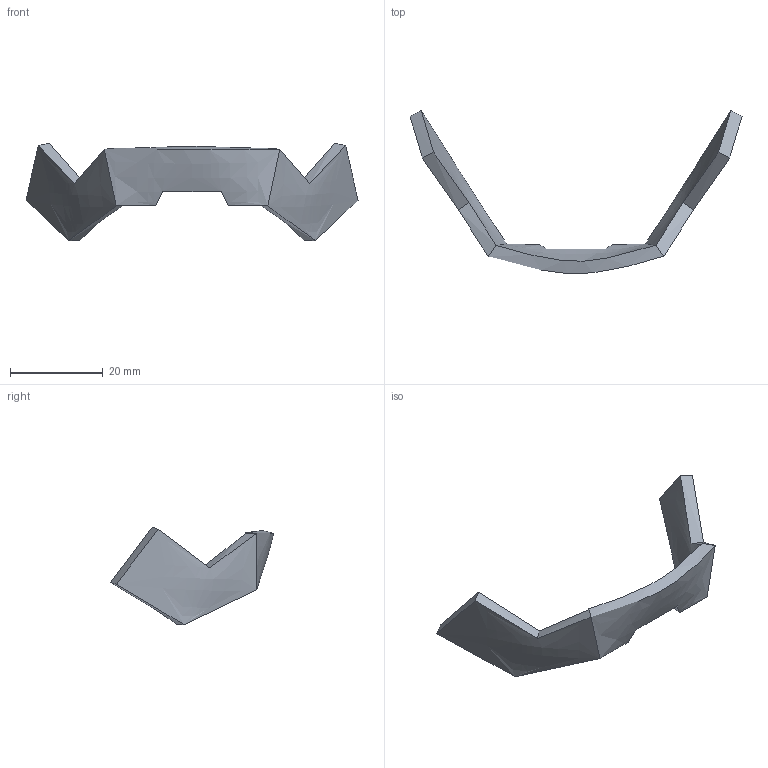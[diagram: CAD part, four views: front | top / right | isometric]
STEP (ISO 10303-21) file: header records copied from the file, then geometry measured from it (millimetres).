
FILE_DESCRIPTION(/* description */ ('STEP AP242','CAx-IF Rec.Pracs.---Representation and Presentation of Product Manufacturing Information (PMI)---4.0---2014-10-13','CAx-IF Rec.Pracs.---3D Tessellated Geometry---0.4---2014-09-14','2;1'),/* implementation_level */ '2;1');
FILE_NAME(/* name */ '6856aac18a3a8d47ea07bb6f',/* time_stamp */ '2025-06-21T12:51:14Z',/* author */ (''),/* organization */ (''),/* preprocessor_version */ 'ST-DEVELOPER v20',/* originating_system */ 'ONSHAPE BY PTC INC, 1.199',/* authorisation */ ' ');
FILE_SCHEMA (('AP242_MANAGED_MODEL_BASED_3D_ENGINEERING_MIM_LF { 1 0 10303 442 1 1 4 }'));
Length unit declared in the file: metre
Products named in the file (1): Vordere untere Seite Gold
Bounding box: 71.49 x 35.14 x 20.98 mm (x, y, z)
Volume: 3303 mm3; surface area: 3061.2 mm2
Topology: 1 solids, 1 shells, 26 faces, 60 edges, 36 vertices
Faces by surface type: bspline 22, cylinder 4
Entity records: 6045 total; most frequent: CARTESIAN_POINT 5624, ORIENTED_EDGE 120, EDGE_CURVE 60, B_SPLINE_CURVE_WITH_KNOTS 60, VERTEX_POINT 36, EDGE_LOOP 26, FACE_BOUND 26, ADVANCED_FACE 26
